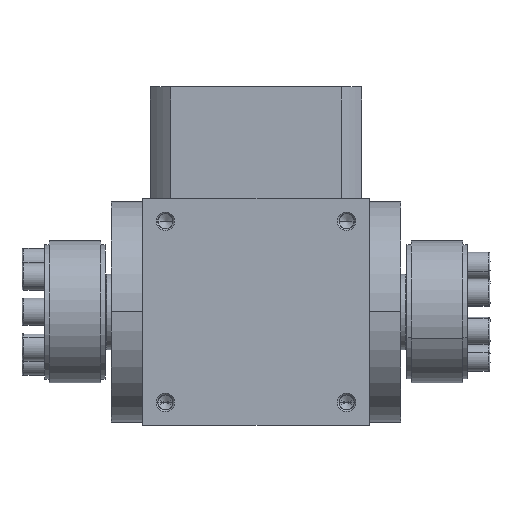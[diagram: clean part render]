
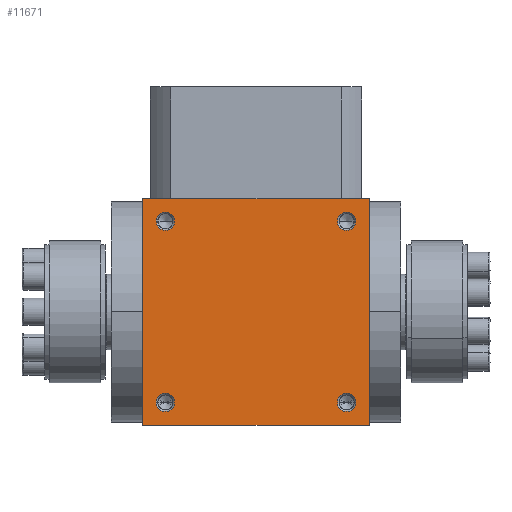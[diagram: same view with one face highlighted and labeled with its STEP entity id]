
A CAD part, front view. The second image highlights one B-rep face of the part: STEP entity #11671.
In plain terms, the highlighted planar face has unit normal (0, -1, 0).
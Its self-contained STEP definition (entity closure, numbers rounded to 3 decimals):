
#420 = EDGE_LOOP ( 'NONE', ( #22374, #18194 ) ) ;
#476 = EDGE_LOOP ( 'NONE', ( #20377, #15620 ) ) ;
#774 = DIRECTION ( 'NONE',  ( -1., 0., 0. ) ) ;
#1016 = ORIENTED_EDGE ( 'NONE', *, *, #3507, .F. ) ;
#1229 = DIRECTION ( 'NONE',  ( 0., -1., 0. ) ) ;
#1348 = DIRECTION ( 'NONE',  ( -1., 0., 0. ) ) ;
#1357 = AXIS2_PLACEMENT_3D ( 'NONE', #5867, #22300, #13233 ) ;
#1470 = EDGE_CURVE ( 'NONE', #9478, #22847, #13768, .T. ) ;
#1511 = AXIS2_PLACEMENT_3D ( 'NONE', #19400, #17702, #15534 ) ;
#2257 = AXIS2_PLACEMENT_3D ( 'NONE', #2264, #7735, #9667 ) ;
#2264 = CARTESIAN_POINT ( 'NONE',  ( -55.52, -49.19, 171.5 ) ) ;
#2315 = DIRECTION ( 'NONE',  ( -1., 0., 0. ) ) ;
#2449 = EDGE_CURVE ( 'NONE', #9618, #14657, #23719, .T. ) ;
#2712 = CARTESIAN_POINT ( 'NONE',  ( -63.02, -49.19, 179. ) ) ;
#2786 = DIRECTION ( 'NONE',  ( 0., -1., 0. ) ) ;
#2937 = AXIS2_PLACEMENT_3D ( 'NONE', #12794, #18108, #18222 ) ;
#3383 = CARTESIAN_POINT ( 'NONE',  ( 1.455, -49.19, 171.5 ) ) ;
#3507 = EDGE_CURVE ( 'NONE', #9723, #5648, #6376, .T. ) ;
#3581 = DIRECTION ( 'NONE',  ( 0., -1., 0. ) ) ;
#3622 = AXIS2_PLACEMENT_3D ( 'NONE', #13034, #3581, #20149 ) ;
#3629 = CARTESIAN_POINT ( 'NONE',  ( 7.505, -49.19, 171.5 ) ) ;
#3930 = FACE_BOUND ( 'NONE', #4181, .T. ) ;
#4028 = CIRCLE ( 'NONE', #3622, 3.025 ) ;
#4161 = CARTESIAN_POINT ( 'NONE',  ( 4.48, -49.19, 171.5 ) ) ;
#4181 = EDGE_LOOP ( 'NONE', ( #15982, #21411 ) ) ;
#4290 = EDGE_CURVE ( 'NONE', #12574, #9696, #13307, .T. ) ;
#4296 = CIRCLE ( 'NONE', #17800, 3.025 ) ;
#4420 = AXIS2_PLACEMENT_3D ( 'NONE', #21031, #8355, #15727 ) ;
#4863 = ORIENTED_EDGE ( 'NONE', *, *, #8052, .F. ) ;
#4979 = EDGE_CURVE ( 'NONE', #9696, #12574, #4028, .T. ) ;
#5648 = VERTEX_POINT ( 'NONE', #20930 ) ;
#5771 = ORIENTED_EDGE ( 'NONE', *, *, #4290, .F. ) ;
#5867 = CARTESIAN_POINT ( 'NONE',  ( -25.52, -49.19, 141.5 ) ) ;
#6376 = LINE ( 'NONE', #18854, #13735 ) ;
#6772 = VECTOR ( 'NONE', #8423, 1000. ) ;
#7305 = EDGE_LOOP ( 'NONE', ( #23619, #5771 ) ) ;
#7735 = DIRECTION ( 'NONE',  ( 0., -1., 0. ) ) ;
#7921 = ORIENTED_EDGE ( 'NONE', *, *, #12505, .F. ) ;
#8052 = EDGE_CURVE ( 'NONE', #5648, #9618, #13484, .T. ) ;
#8315 = CARTESIAN_POINT ( 'NONE',  ( 11.98, -49.19, 179. ) ) ;
#8355 = DIRECTION ( 'NONE',  ( 0., -1., 0. ) ) ;
#8423 = DIRECTION ( 'NONE',  ( 1., 0., 0. ) ) ;
#9478 = VERTEX_POINT ( 'NONE', #3383 ) ;
#9618 = VERTEX_POINT ( 'NONE', #22821 ) ;
#9667 = DIRECTION ( 'NONE',  ( -1., 0., 0. ) ) ;
#9696 = VERTEX_POINT ( 'NONE', #19777 ) ;
#9723 = VERTEX_POINT ( 'NONE', #8315 ) ;
#9844 = FACE_BOUND ( 'NONE', #476, .T. ) ;
#10030 = CIRCLE ( 'NONE', #1511, 3.025 ) ;
#10090 = CARTESIAN_POINT ( 'NONE',  ( -63.02, -49.19, 104. ) ) ;
#10138 = VECTOR ( 'NONE', #14199, 1000. ) ;
#10218 = CARTESIAN_POINT ( 'NONE',  ( -63.02, -49.19, 179. ) ) ;
#10353 = LINE ( 'NONE', #10218, #6772 ) ;
#10616 = AXIS2_PLACEMENT_3D ( 'NONE', #12675, #10853, #18215 ) ;
#10853 = DIRECTION ( 'NONE',  ( 0., -1., 0. ) ) ;
#11542 = VERTEX_POINT ( 'NONE', #23620 ) ;
#11671 = ADVANCED_FACE ( 'NONE', ( #16873, #3930, #9844, #15048, #14930 ), #22414, .F. ) ;
#11858 = CIRCLE ( 'NONE', #2937, 3.025 ) ;
#12298 = EDGE_CURVE ( 'NONE', #21955, #20777, #20296, .T. ) ;
#12490 = CARTESIAN_POINT ( 'NONE',  ( -63.02, -49.19, 104. ) ) ;
#12505 = EDGE_CURVE ( 'NONE', #14657, #9723, #10353, .T. ) ;
#12574 = VERTEX_POINT ( 'NONE', #19760 ) ;
#12675 = CARTESIAN_POINT ( 'NONE',  ( -55.52, -49.19, 111.5 ) ) ;
#12794 = CARTESIAN_POINT ( 'NONE',  ( 4.48, -49.19, 171.5 ) ) ;
#13034 = CARTESIAN_POINT ( 'NONE',  ( 4.48, -49.19, 111.5 ) ) ;
#13080 = CIRCLE ( 'NONE', #2257, 3.025 ) ;
#13233 = DIRECTION ( 'NONE',  ( 1., 0., 0. ) ) ;
#13307 = CIRCLE ( 'NONE', #4420, 3.025 ) ;
#13484 = LINE ( 'NONE', #10090, #20672 ) ;
#13735 = VECTOR ( 'NONE', #17377, 1000. ) ;
#13768 = CIRCLE ( 'NONE', #16068, 3.025 ) ;
#14199 = DIRECTION ( 'NONE',  ( 0., 0., 1. ) ) ;
#14657 = VERTEX_POINT ( 'NONE', #2712 ) ;
#14908 = CARTESIAN_POINT ( 'NONE',  ( -58.545, -49.19, 171.5 ) ) ;
#14930 = FACE_OUTER_BOUND ( 'NONE', #19386, .T. ) ;
#15048 = FACE_BOUND ( 'NONE', #7305, .T. ) ;
#15057 = CARTESIAN_POINT ( 'NONE',  ( -58.545, -49.19, 111.5 ) ) ;
#15534 = DIRECTION ( 'NONE',  ( -1., 0., 0. ) ) ;
#15620 = ORIENTED_EDGE ( 'NONE', *, *, #21104, .F. ) ;
#15727 = DIRECTION ( 'NONE',  ( -1., 0., 0. ) ) ;
#15982 = ORIENTED_EDGE ( 'NONE', *, *, #19937, .F. ) ;
#16068 = AXIS2_PLACEMENT_3D ( 'NONE', #4161, #2786, #2315 ) ;
#16873 = FACE_BOUND ( 'NONE', #420, .T. ) ;
#17377 = DIRECTION ( 'NONE',  ( 0., 0., -1. ) ) ;
#17702 = DIRECTION ( 'NONE',  ( 0., -1., 0. ) ) ;
#17800 = AXIS2_PLACEMENT_3D ( 'NONE', #21783, #1229, #1348 ) ;
#18102 = EDGE_CURVE ( 'NONE', #22847, #9478, #11858, .T. ) ;
#18108 = DIRECTION ( 'NONE',  ( 0., -1., 0. ) ) ;
#18194 = ORIENTED_EDGE ( 'NONE', *, *, #18102, .F. ) ;
#18215 = DIRECTION ( 'NONE',  ( -1., 0., 0. ) ) ;
#18222 = DIRECTION ( 'NONE',  ( -1., 0., 0. ) ) ;
#18854 = CARTESIAN_POINT ( 'NONE',  ( 11.98, -49.19, 104. ) ) ;
#19386 = EDGE_LOOP ( 'NONE', ( #19435, #4863, #1016, #7921 ) ) ;
#19400 = CARTESIAN_POINT ( 'NONE',  ( -55.52, -49.19, 111.5 ) ) ;
#19435 = ORIENTED_EDGE ( 'NONE', *, *, #2449, .F. ) ;
#19760 = CARTESIAN_POINT ( 'NONE',  ( 7.505, -49.19, 111.5 ) ) ;
#19777 = CARTESIAN_POINT ( 'NONE',  ( 1.455, -49.19, 111.5 ) ) ;
#19937 = EDGE_CURVE ( 'NONE', #20777, #21955, #10030, .T. ) ;
#20149 = DIRECTION ( 'NONE',  ( -1., 0., 0. ) ) ;
#20296 = CIRCLE ( 'NONE', #10616, 3.025 ) ;
#20377 = ORIENTED_EDGE ( 'NONE', *, *, #23492, .F. ) ;
#20672 = VECTOR ( 'NONE', #774, 1000. ) ;
#20777 = VERTEX_POINT ( 'NONE', #15057 ) ;
#20930 = CARTESIAN_POINT ( 'NONE',  ( 11.98, -49.19, 104. ) ) ;
#21031 = CARTESIAN_POINT ( 'NONE',  ( 4.48, -49.19, 111.5 ) ) ;
#21104 = EDGE_CURVE ( 'NONE', #11542, #22460, #4296, .T. ) ;
#21368 = CARTESIAN_POINT ( 'NONE',  ( -52.495, -49.19, 111.5 ) ) ;
#21411 = ORIENTED_EDGE ( 'NONE', *, *, #12298, .F. ) ;
#21783 = CARTESIAN_POINT ( 'NONE',  ( -55.52, -49.19, 171.5 ) ) ;
#21955 = VERTEX_POINT ( 'NONE', #21368 ) ;
#22300 = DIRECTION ( 'NONE',  ( 0., 1., 0. ) ) ;
#22374 = ORIENTED_EDGE ( 'NONE', *, *, #1470, .F. ) ;
#22414 = PLANE ( 'NONE',  #1357 ) ;
#22460 = VERTEX_POINT ( 'NONE', #14908 ) ;
#22821 = CARTESIAN_POINT ( 'NONE',  ( -63.02, -49.19, 104. ) ) ;
#22847 = VERTEX_POINT ( 'NONE', #3629 ) ;
#23492 = EDGE_CURVE ( 'NONE', #22460, #11542, #13080, .T. ) ;
#23619 = ORIENTED_EDGE ( 'NONE', *, *, #4979, .F. ) ;
#23620 = CARTESIAN_POINT ( 'NONE',  ( -52.495, -49.19, 171.5 ) ) ;
#23719 = LINE ( 'NONE', #12490, #10138 ) ;
